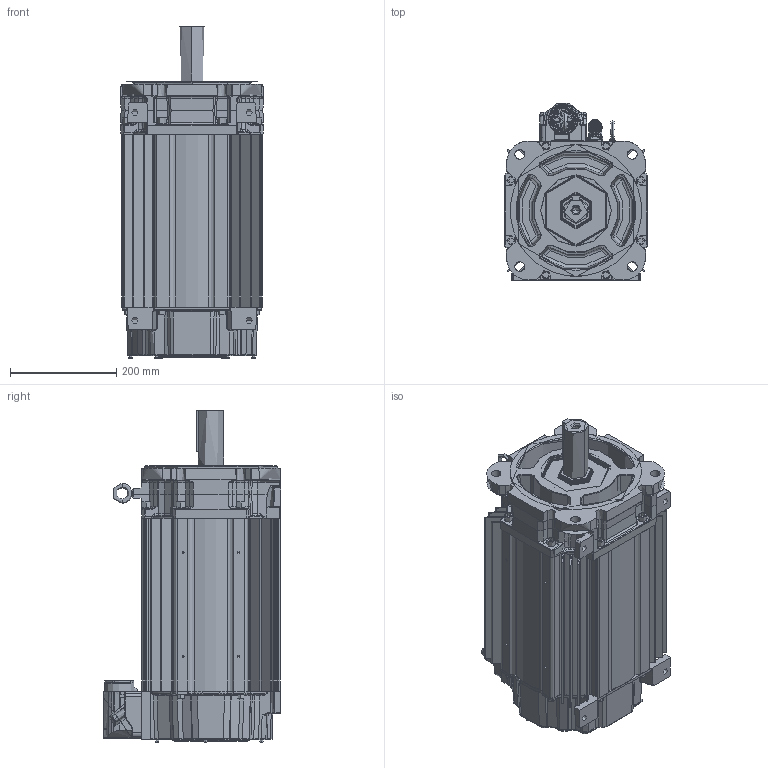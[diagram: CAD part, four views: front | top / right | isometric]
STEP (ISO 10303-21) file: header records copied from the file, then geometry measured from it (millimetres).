
FILE_DESCRIPTION((''),'2;1');
FILE_NAME('10005239736_ASM','2020-01-16T11:42:45',('VThimma'),('Rockwell Automation'),'CREO PARAMETRIC BY PTC INC, 2017380','CREO PARAMETRIC BY PTC INC, 2017380','');
FILE_SCHEMA(('CONFIG_CONTROL_DESIGN','SHAPE_APPEARANCE_LAYERS_GROUPS'));
Products named in the file (28): 10001441958; 10001404634_AF0; 10001404629_AF6; 10001404635_ASM; 10001585735; 10001442012_ASM; 10001439798; 10001440031_ASM; 10001405269_AF28; 10001405370_ASM; 10001586887; 0002-5004; 10001609981; 10001737030; 10000014325-2; 10000014331; 10000014332-460; 10000014330-460_ASM; 10000172464; 10000046189; 10000046190; 10000046191; 10000046193_ASM; 10001586879; 10001408124; 221404-Q12; 0011-2084; 10005239736_ASM
Assembly tree (52 placements, depth 4):
  10005239736_ASM
    10001442012_ASM
      10001441958
      10001404635_ASM
        10001404634_AF0
        10001404629_AF6
      10001585735  x8
    10001440031_ASM
      10001439798
    10001405370_ASM
      10001405269_AF28
    10001586887  x7
    0002-5004  x2
    10001609981
    10001737030
    10000014330-460_ASM
      10000014325-2
      10000014331
      10000014332-460
    10000172464  x4
    10000046193_ASM
      10000046189
      10000046190
      10000046191
    10001586879  x4
    10001408124
    221404-Q12  x6
    0011-2084
Bounding box: 269.49 x 335.29 x 626.33 mm (x, y, z)
Topology: 0 solids, 71 shells, 6704 faces, 17833 edges, 11271 vertices
Faces by surface type: cylinder 2474, plane 1690, bspline 1104, torus 778, cone 531, sphere 109, extrusion 17, revolution 1
Entity records: 337109 total; most frequent: CARTESIAN_POINT 111964, ORIENTED_EDGE 30655, DIRECTION 27488, PRESENTATION_STYLE_ASSIGNMENT 21102, STYLED_ITEM 21102, CURVE_STYLE 15381, EDGE_CURVE 15364, AXIS2_PLACEMENT_3D 11090
